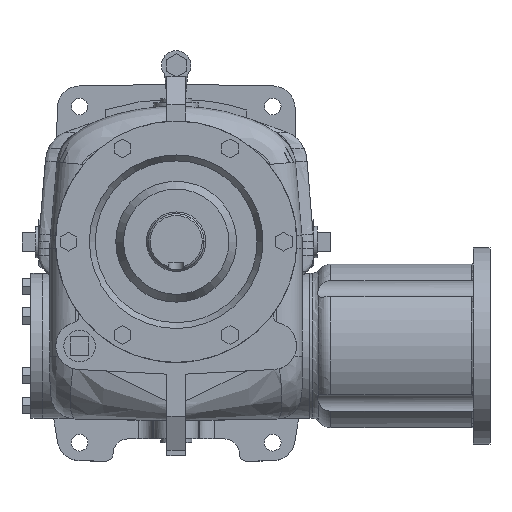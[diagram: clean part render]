
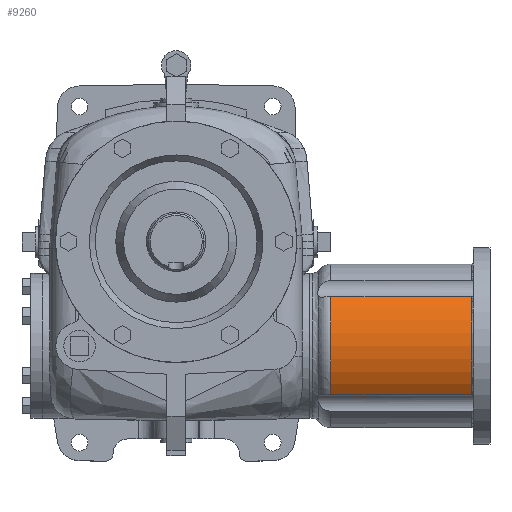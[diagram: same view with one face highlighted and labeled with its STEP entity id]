
A CAD part, top view. The second image highlights one B-rep face of the part: STEP entity #9260.
In plain terms, the highlighted cylindrical face has radius 69.85 mm (diameter 139.7 mm), a partial arc.
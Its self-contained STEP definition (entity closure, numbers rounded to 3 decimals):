
#340=CYLINDRICAL_SURFACE('',#11411,69.85);
#508=CIRCLE('',#11346,69.85);
#509=CIRCLE('',#11348,69.85);
#1067=LINE('',#20335,#1798);
#1068=LINE('',#20336,#1799);
#1798=VECTOR('',#13211,1000.);
#1799=VECTOR('',#13212,1000.);
#3992=ORIENTED_EDGE('',*,*,#5594,.T.);
#3993=ORIENTED_EDGE('',*,*,#5689,.T.);
#3994=ORIENTED_EDGE('',*,*,#5596,.F.);
#3995=ORIENTED_EDGE('',*,*,#5690,.T.);
#5594=EDGE_CURVE('',#6622,#6621,#508,.T.);
#5596=EDGE_CURVE('',#6623,#6624,#509,.T.);
#5689=EDGE_CURVE('',#6621,#6624,#1067,.F.);
#5690=EDGE_CURVE('',#6623,#6622,#1068,.T.);
#6621=VERTEX_POINT('',#19928);
#6622=VERTEX_POINT('',#19930);
#6623=VERTEX_POINT('',#19938);
#6624=VERTEX_POINT('',#19939);
#7645=EDGE_LOOP('',(#3992,#3993,#3994,#3995));
#8350=FACE_BOUND('',#7645,.T.);
#9260=ADVANCED_FACE('',(#8350),#340,.T.);
#11346=AXIS2_PLACEMENT_3D('',#19929,#13061,#13062);
#11348=AXIS2_PLACEMENT_3D('',#19937,#13065,#13066);
#11411=AXIS2_PLACEMENT_3D('',#20334,#13209,#13210);
#13061=DIRECTION('',(-1.,0.,0.));
#13062=DIRECTION('',(0.,0.,1.));
#13065=DIRECTION('',(-1.,0.,0.));
#13066=DIRECTION('',(0.,0.,1.));
#13209=DIRECTION('',(-1.,0.,0.));
#13210=DIRECTION('',(0.,0.,1.));
#13211=DIRECTION('',(1.,0.,0.));
#13212=DIRECTION('',(1.,0.,0.));
#19928=CARTESIAN_POINT('',(138.24,42.007,55.807));
#19929=CARTESIAN_POINT('',(138.24,0.,0.));
#19930=CARTESIAN_POINT('',(138.24,-42.007,55.807));
#19937=CARTESIAN_POINT('',(17.904,0.,0.));
#19938=CARTESIAN_POINT('',(17.904,-42.007,55.807));
#19939=CARTESIAN_POINT('',(17.904,42.007,55.807));
#20334=CARTESIAN_POINT('',(-60.008,0.,0.));
#20335=CARTESIAN_POINT('',(52.451,42.007,55.807));
#20336=CARTESIAN_POINT('',(52.451,-42.007,55.807));
